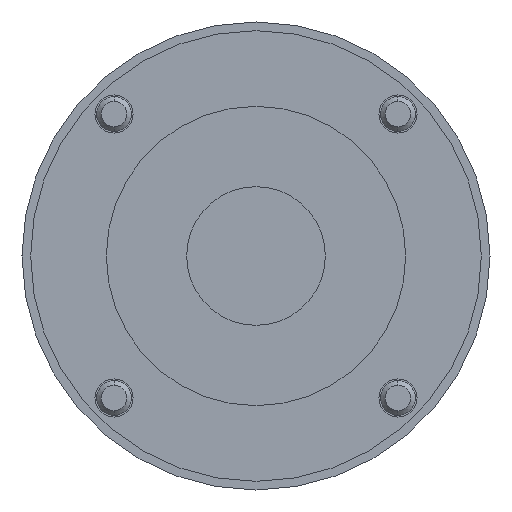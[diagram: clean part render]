
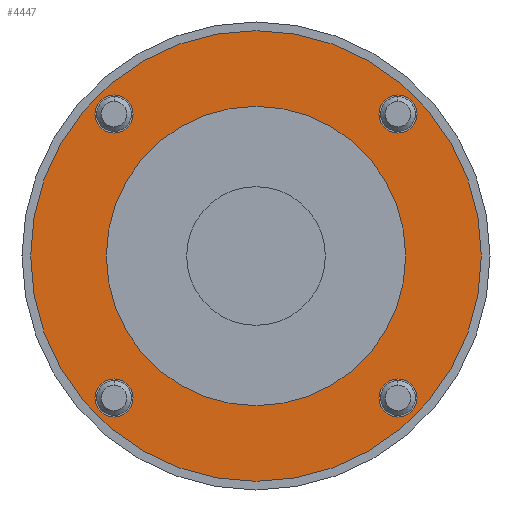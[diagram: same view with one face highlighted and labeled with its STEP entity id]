
A CAD part, left-side view. The second image highlights one B-rep face of the part: STEP entity #4447.
In plain terms, the highlighted planar face has unit normal (-1, 0, 0).
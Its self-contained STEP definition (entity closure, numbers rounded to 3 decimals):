
#25 = CARTESIAN_POINT ( 'NONE',  ( 3.5, 24.572, 27.872 ) ) ;
#26 = CIRCLE ( 'NONE', #27, 3.3 ) ;
#27 = AXIS2_PLACEMENT_3D ( 'NONE', #28, #30, #68 ) ;
#28 = CARTESIAN_POINT ( 'NONE',  ( 3.5, 24.572, 24.572 ) ) ;
#30 = DIRECTION ( 'NONE',  ( 1., 0., 0. ) ) ;
#52 = CARTESIAN_POINT ( 'NONE',  ( 3.5, 0., -25.9 ) ) ;
#68 = DIRECTION ( 'NONE',  ( 0., 0., -1. ) ) ;
#118 = CARTESIAN_POINT ( 'NONE',  ( 3.5, 24.572, 21.272 ) ) ;
#3142 = CIRCLE ( 'NONE', #3155, 3.3 ) ;
#3143 = DIRECTION ( 'NONE',  ( 0., 0., -1. ) ) ;
#3144 = DIRECTION ( 'NONE',  ( 1., 0., 0. ) ) ;
#3145 = CARTESIAN_POINT ( 'NONE',  ( 3.5, -24.572, 24.572 ) ) ;
#3146 = AXIS2_PLACEMENT_3D ( 'NONE', #3145, #3144, #3143 ) ;
#3147 = CARTESIAN_POINT ( 'NONE',  ( 3.5, 24.572, 24.572 ) ) ;
#3149 = DIRECTION ( 'NONE',  ( 1., 0., 0. ) ) ;
#3150 = CIRCLE ( 'NONE', #3146, 3.3 ) ;
#3151 = DIRECTION ( 'NONE',  ( 0., 0., -1. ) ) ;
#3152 = DIRECTION ( 'NONE',  ( 1., 0., 0. ) ) ;
#3153 = CARTESIAN_POINT ( 'NONE',  ( 3.5, 24.572, -24.572 ) ) ;
#3154 = AXIS2_PLACEMENT_3D ( 'NONE', #3153, #3152, #3151 ) ;
#3155 = AXIS2_PLACEMENT_3D ( 'NONE', #3147, #3149, #3307 ) ;
#3156 = DIRECTION ( 'NONE',  ( 0., 0., -1. ) ) ;
#3157 = CIRCLE ( 'NONE', #3154, 3.3 ) ;
#3159 = FACE_BOUND ( 'NONE', #4458, .T. ) ;
#3160 = FACE_BOUND ( 'NONE', #4452, .T. ) ;
#3161 = FACE_BOUND ( 'NONE', #4450, .T. ) ;
#3162 = PLANE ( 'NONE',  #3224 ) ;
#3163 = FACE_BOUND ( 'NONE', #4446, .T. ) ;
#3164 = FACE_OUTER_BOUND ( 'NONE', #4457, .T. ) ;
#3165 = FACE_BOUND ( 'NONE', #4425, .T. ) ;
#3175 = DIRECTION ( 'NONE',  ( 0., 0., -1. ) ) ;
#3176 = DIRECTION ( 'NONE',  ( 1., 0., 0. ) ) ;
#3177 = CARTESIAN_POINT ( 'NONE',  ( 3.5, -24.572, -24.572 ) ) ;
#3178 = AXIS2_PLACEMENT_3D ( 'NONE', #3177, #3176, #3175 ) ;
#3187 = CARTESIAN_POINT ( 'NONE',  ( 3.5, -24.572, 27.872 ) ) ;
#3192 = CARTESIAN_POINT ( 'NONE',  ( 3.5, -24.572, 21.272 ) ) ;
#3199 = CARTESIAN_POINT ( 'NONE',  ( 3.5, -24.572, -27.872 ) ) ;
#3201 = CIRCLE ( 'NONE', #3178, 3.3 ) ;
#3207 = DIRECTION ( 'NONE',  ( 1., 0., 0. ) ) ;
#3208 = CARTESIAN_POINT ( 'NONE',  ( 3.5, 39., 0. ) ) ;
#3211 = DIRECTION ( 'NONE',  ( 0., 0., -1. ) ) ;
#3212 = AXIS2_PLACEMENT_3D ( 'NONE', #3215, #3230, #3211 ) ;
#3215 = CARTESIAN_POINT ( 'NONE',  ( 3.5, -24.572, -24.572 ) ) ;
#3217 = CIRCLE ( 'NONE', #3212, 3.3 ) ;
#3224 = AXIS2_PLACEMENT_3D ( 'NONE', #3208, #3207, #3156 ) ;
#3230 = DIRECTION ( 'NONE',  ( 1., 0., 0. ) ) ;
#3235 = DIRECTION ( 'NONE',  ( 0., 0., 1. ) ) ;
#3236 = DIRECTION ( 'NONE',  ( -1., 0., 0. ) ) ;
#3237 = CARTESIAN_POINT ( 'NONE',  ( 3.5, 0., 0. ) ) ;
#3299 = DIRECTION ( 'NONE',  ( 0., 0., 1. ) ) ;
#3300 = DIRECTION ( 'NONE',  ( -1., 0., 0. ) ) ;
#3301 = CARTESIAN_POINT ( 'NONE',  ( 3.5, 0., 0. ) ) ;
#3302 = AXIS2_PLACEMENT_3D ( 'NONE', #3301, #3300, #3299 ) ;
#3307 = DIRECTION ( 'NONE',  ( 0., 0., -1. ) ) ;
#3309 = CIRCLE ( 'NONE', #3302, 25.9 ) ;
#3333 = AXIS2_PLACEMENT_3D ( 'NONE', #3237, #3236, #3235 ) ;
#3337 = CIRCLE ( 'NONE', #3333, 39. ) ;
#3480 = CARTESIAN_POINT ( 'NONE',  ( 3.5, 0., -39. ) ) ;
#4123 = VERTEX_POINT ( 'NONE', #5320 ) ;
#4125 = EDGE_CURVE ( 'NONE', #4227, #4123, #5310, .T. ) ;
#4154 = EDGE_CURVE ( 'NONE', #4397, #4388, #5419, .T. ) ;
#4164 = VERTEX_POINT ( 'NONE', #5384 ) ;
#4165 = EDGE_CURVE ( 'NONE', #4166, #4167, #5387, .T. ) ;
#4166 = VERTEX_POINT ( 'NONE', #5381 ) ;
#4167 = VERTEX_POINT ( 'NONE', #5394 ) ;
#4197 = EDGE_CURVE ( 'NONE', #4201, #4203, #26, .T. ) ;
#4201 = VERTEX_POINT ( 'NONE', #25 ) ;
#4203 = VERTEX_POINT ( 'NONE', #118 ) ;
#4227 = VERTEX_POINT ( 'NONE', #52 ) ;
#4385 = VERTEX_POINT ( 'NONE', #3199 ) ;
#4388 = VERTEX_POINT ( 'NONE', #3192 ) ;
#4395 = EDGE_CURVE ( 'NONE', #4164, #4385, #3201, .T. ) ;
#4397 = VERTEX_POINT ( 'NONE', #3187 ) ;
#4419 = EDGE_CURVE ( 'NONE', #4711, #4506, #3337, .T. ) ;
#4425 = EDGE_LOOP ( 'NONE', ( #4449, #4448 ) ) ;
#4427 = ORIENTED_EDGE ( 'NONE', *, *, #4154, .T. ) ;
#4429 = EDGE_CURVE ( 'NONE', #4385, #4164, #3217, .T. ) ;
#4431 = ORIENTED_EDGE ( 'NONE', *, *, #4455, .T. ) ;
#4443 = ORIENTED_EDGE ( 'NONE', *, *, #4460, .F. ) ;
#4445 = ORIENTED_EDGE ( 'NONE', *, *, #4429, .T. ) ;
#4446 = EDGE_LOOP ( 'NONE', ( #4445, #4454 ) ) ;
#4447 = ADVANCED_FACE ( 'NONE', ( #3165, #3163, #3161, #3160, #3159, #3164 ), #3162, .F. ) ;
#4448 = ORIENTED_EDGE ( 'NONE', *, *, #4165, .T. ) ;
#4449 = ORIENTED_EDGE ( 'NONE', *, *, #4451, .T. ) ;
#4450 = EDGE_LOOP ( 'NONE', ( #4431, #4427 ) ) ;
#4451 = EDGE_CURVE ( 'NONE', #4167, #4166, #3157, .T. ) ;
#4452 = EDGE_LOOP ( 'NONE', ( #4453, #4459 ) ) ;
#4453 = ORIENTED_EDGE ( 'NONE', *, *, #4456, .T. ) ;
#4454 = ORIENTED_EDGE ( 'NONE', *, *, #4395, .T. ) ;
#4455 = EDGE_CURVE ( 'NONE', #4388, #4397, #3150, .T. ) ;
#4456 = EDGE_CURVE ( 'NONE', #4203, #4201, #3142, .T. ) ;
#4457 = EDGE_LOOP ( 'NONE', ( #4463, #4793 ) ) ;
#4458 = EDGE_LOOP ( 'NONE', ( #4443, #4461 ) ) ;
#4459 = ORIENTED_EDGE ( 'NONE', *, *, #4197, .T. ) ;
#4460 = EDGE_CURVE ( 'NONE', #4123, #4227, #3309, .T. ) ;
#4461 = ORIENTED_EDGE ( 'NONE', *, *, #4125, .F. ) ;
#4463 = ORIENTED_EDGE ( 'NONE', *, *, #4419, .T. ) ;
#4506 = VERTEX_POINT ( 'NONE', #3480 ) ;
#4711 = VERTEX_POINT ( 'NONE', #5818 ) ;
#4718 = EDGE_CURVE ( 'NONE', #4506, #4711, #5784, .T. ) ;
#4793 = ORIENTED_EDGE ( 'NONE', *, *, #4718, .T. ) ;
#5276 = CARTESIAN_POINT ( 'NONE',  ( 3.5, 0., 0. ) ) ;
#5310 = CIRCLE ( 'NONE', #5453, 25.9 ) ;
#5320 = CARTESIAN_POINT ( 'NONE',  ( 3.5, 0., 25.9 ) ) ;
#5377 = DIRECTION ( 'NONE',  ( 0., 0., -1. ) ) ;
#5378 = DIRECTION ( 'NONE',  ( 1., 0., 0. ) ) ;
#5379 = CARTESIAN_POINT ( 'NONE',  ( 3.5, 24.572, -24.572 ) ) ;
#5380 = AXIS2_PLACEMENT_3D ( 'NONE', #5379, #5378, #5377 ) ;
#5381 = CARTESIAN_POINT ( 'NONE',  ( 3.5, 24.572, -21.272 ) ) ;
#5384 = CARTESIAN_POINT ( 'NONE',  ( 3.5, -24.572, -21.272 ) ) ;
#5387 = CIRCLE ( 'NONE', #5380, 3.3 ) ;
#5394 = CARTESIAN_POINT ( 'NONE',  ( 3.5, 24.572, -27.872 ) ) ;
#5400 = DIRECTION ( 'NONE',  ( 0., 0., -1. ) ) ;
#5401 = DIRECTION ( 'NONE',  ( 1., 0., 0. ) ) ;
#5409 = CARTESIAN_POINT ( 'NONE',  ( 3.5, -24.572, 24.572 ) ) ;
#5419 = CIRCLE ( 'NONE', #5427, 3.3 ) ;
#5427 = AXIS2_PLACEMENT_3D ( 'NONE', #5409, #5401, #5400 ) ;
#5451 = DIRECTION ( 'NONE',  ( 0., 0., 1. ) ) ;
#5452 = DIRECTION ( 'NONE',  ( -1., 0., 0. ) ) ;
#5453 = AXIS2_PLACEMENT_3D ( 'NONE', #5276, #5452, #5451 ) ;
#5769 = DIRECTION ( 'NONE',  ( 0., 0., 1. ) ) ;
#5770 = DIRECTION ( 'NONE',  ( -1., 0., 0. ) ) ;
#5771 = CARTESIAN_POINT ( 'NONE',  ( 3.5, 0., 0. ) ) ;
#5784 = CIRCLE ( 'NONE', #5785, 39. ) ;
#5785 = AXIS2_PLACEMENT_3D ( 'NONE', #5771, #5770, #5769 ) ;
#5818 = CARTESIAN_POINT ( 'NONE',  ( 3.5, 0., 39. ) ) ;
